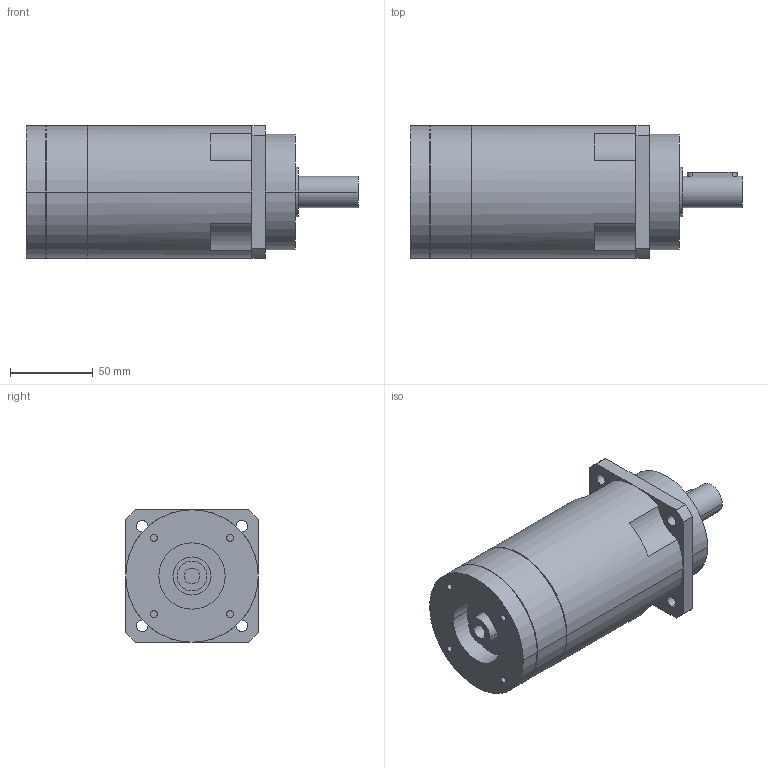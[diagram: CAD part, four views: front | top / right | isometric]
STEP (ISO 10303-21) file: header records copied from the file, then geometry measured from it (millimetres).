
FILE_DESCRIPTION(('CoCreate Modeling STEP Export'),'2;1');
FILE_NAME('GPR100_ig-48-64-80-100-120-144-180-216_19_B5_9.52_P26.stp','2014-08-26T11:57:59',(''),(''),'CoCreate Modeling STEP processor for AP214 (Solid Model)','CoCreate Modeling 16.00C 25-Feb-2009 (C) Parametric Technology GmbH','');
FILE_SCHEMA(('AUTOMOTIVE_DESIGN { 1 0 10303 214 1 1 1 1 }'));
Length unit declared in the file: millimetre
Products named in the file (2): GPR100_ig-48-64-80-100-120-144-180-216_19_B5_9.52_P26
Assembly tree (1 placements, depth 2):
  GPR100_ig-48-64-80-100-120-144-180-216_19_B5_9.52_P26
    GPR100_ig-48-64-80-100-120-144-180-216_19_B5_9.52_P26
Bounding box: 200.4 x 80 x 80 mm (x, y, z)
Volume: 792204.6 mm3; surface area: 61002.4 mm2
Topology: 1 solids, 1 shells, 84 faces, 214 edges, 144 vertices
Faces by surface type: cylinder 48, plane 30, cone 6
Entity records: 2289 total; most frequent: ORIENTED_EDGE 424, CARTESIAN_POINT 416, DIRECTION 336, EDGE_CURVE 212, VERTEX_POINT 144, AXIS2_PLACEMENT_3D 128, EDGE_LOOP 106, FACE_OUTER_BOUND 84
